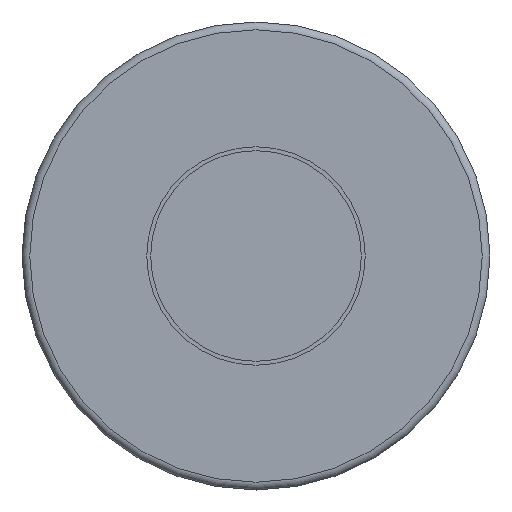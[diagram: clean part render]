
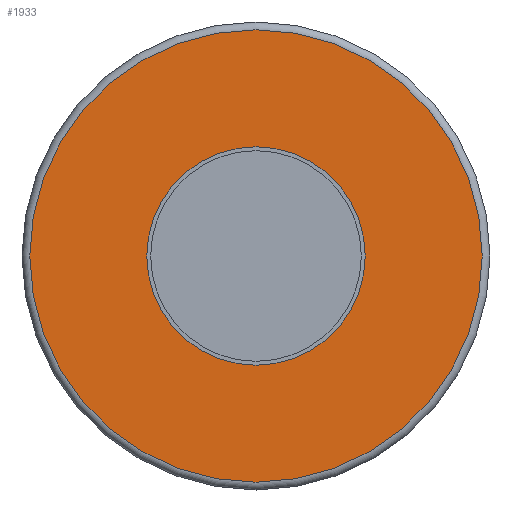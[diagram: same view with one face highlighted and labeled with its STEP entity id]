
A CAD part, front view. The second image highlights one B-rep face of the part: STEP entity #1933.
In plain terms, the highlighted planar face has unit normal (0, -1, 0).
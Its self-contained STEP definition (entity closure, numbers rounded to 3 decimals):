
#85=FACE_BOUND('',#288,.T.);
#109=PLANE('',#2202);
#181=FACE_OUTER_BOUND('',#287,.T.);
#287=EDGE_LOOP('',(#1337,#1338));
#288=EDGE_LOOP('',(#1339,#1340));
#536=CIRCLE('',#2200,14.);
#537=CIRCLE('',#2201,14.);
#538=CIRCLE('',#2203,29.);
#539=CIRCLE('',#2204,29.);
#772=VERTEX_POINT('',#3342);
#773=VERTEX_POINT('',#3344);
#774=VERTEX_POINT('',#3348);
#775=VERTEX_POINT('',#3349);
#1006=EDGE_CURVE('',#773,#772,#536,.T.);
#1007=EDGE_CURVE('',#772,#773,#537,.T.);
#1008=EDGE_CURVE('',#774,#775,#538,.T.);
#1009=EDGE_CURVE('',#775,#774,#539,.T.);
#1337=ORIENTED_EDGE('',*,*,#1008,.F.);
#1338=ORIENTED_EDGE('',*,*,#1009,.F.);
#1339=ORIENTED_EDGE('',*,*,#1006,.T.);
#1340=ORIENTED_EDGE('',*,*,#1007,.T.);
#1933=ADVANCED_FACE('',(#181,#85),#109,.T.);
#2200=AXIS2_PLACEMENT_3D('',#3345,#2594,#2595);
#2201=AXIS2_PLACEMENT_3D('',#3346,#2596,#2597);
#2202=AXIS2_PLACEMENT_3D('',#3347,#2598,#2599);
#2203=AXIS2_PLACEMENT_3D('',#3350,#2600,#2601);
#2204=AXIS2_PLACEMENT_3D('',#3351,#2602,#2603);
#2594=DIRECTION('center_axis',(0.,1.,0.));
#2595=DIRECTION('ref_axis',(1.,0.,0.));
#2596=DIRECTION('center_axis',(0.,1.,0.));
#2597=DIRECTION('ref_axis',(1.,0.,0.));
#2598=DIRECTION('center_axis',(0.,-1.,0.));
#2599=DIRECTION('ref_axis',(0.,0.,-1.));
#2600=DIRECTION('center_axis',(0.,1.,0.));
#2601=DIRECTION('ref_axis',(1.,0.,0.));
#2602=DIRECTION('center_axis',(0.,1.,0.));
#2603=DIRECTION('ref_axis',(1.,0.,0.));
#3342=CARTESIAN_POINT('',(14.,0.,0.));
#3344=CARTESIAN_POINT('',(-14.,0.,0.));
#3345=CARTESIAN_POINT('Origin',(0.,0.,0.));
#3346=CARTESIAN_POINT('Origin',(0.,0.,0.));
#3347=CARTESIAN_POINT('Origin',(-29.,0.,
0.));
#3348=CARTESIAN_POINT('',(-29.,0.,0.));
#3349=CARTESIAN_POINT('',(0.,0.,-29.));
#3350=CARTESIAN_POINT('Origin',(0.,0.,0.));
#3351=CARTESIAN_POINT('Origin',(0.,0.,0.));
